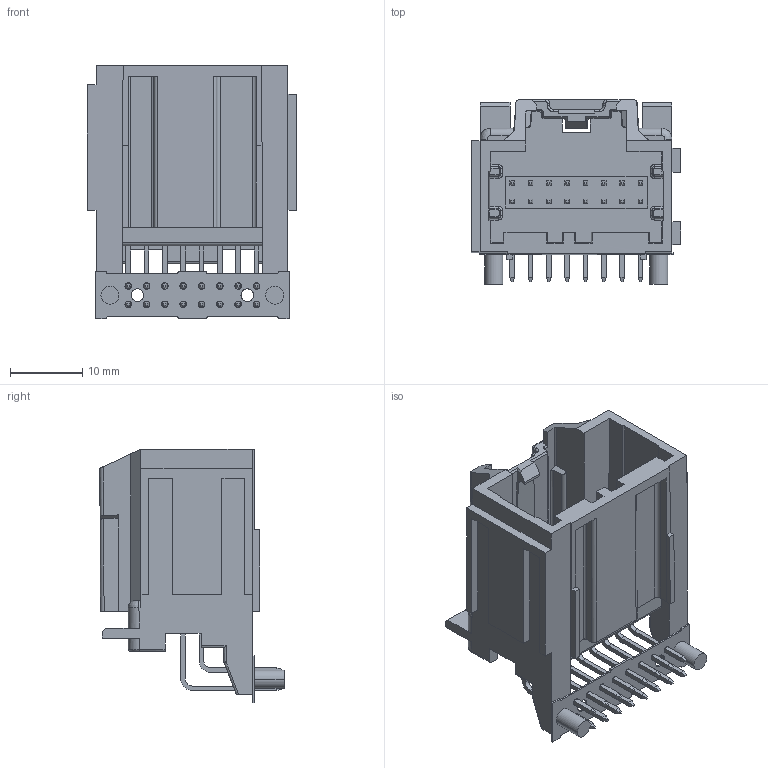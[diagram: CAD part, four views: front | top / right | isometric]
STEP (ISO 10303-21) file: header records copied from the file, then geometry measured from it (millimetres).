
FILE_DESCRIPTION((''),'2;1');
FILE_NAME('346910162','2013-12-24T',('me'),(''),'PRO/ENGINEER BY PARAMETRIC TECHNOLOGY CORPORATION, 2011490','PRO/ENGINEER BY PARAMETRIC TECHNOLOGY CORPORATION, 2011490','');
FILE_SCHEMA(('CONFIG_CONTROL_DESIGN'));
Length unit declared in the file: millimetre
Products named in the file (1): 346910162
Bounding box: 29.02 x 25.56 x 35.16 mm (x, y, z)
Volume: 5246.6 mm3; surface area: 8067.2 mm2
Topology: 1 solids, 1 shells, 1380 faces, 3831 edges, 2497 vertices
Faces by surface type: plane 1124, cylinder 210, bspline 27, torus 12, sphere 4, cone 3
Entity records: 45291 total; most frequent: CARTESIAN_POINT 10435, ORIENTED_EDGE 7578, DIRECTION 6486, EDGE_CURVE 3789, VECTOR 3268, LINE 3268, VERTEX_POINT 2461, AXIS2_PLACEMENT_3D 1609
